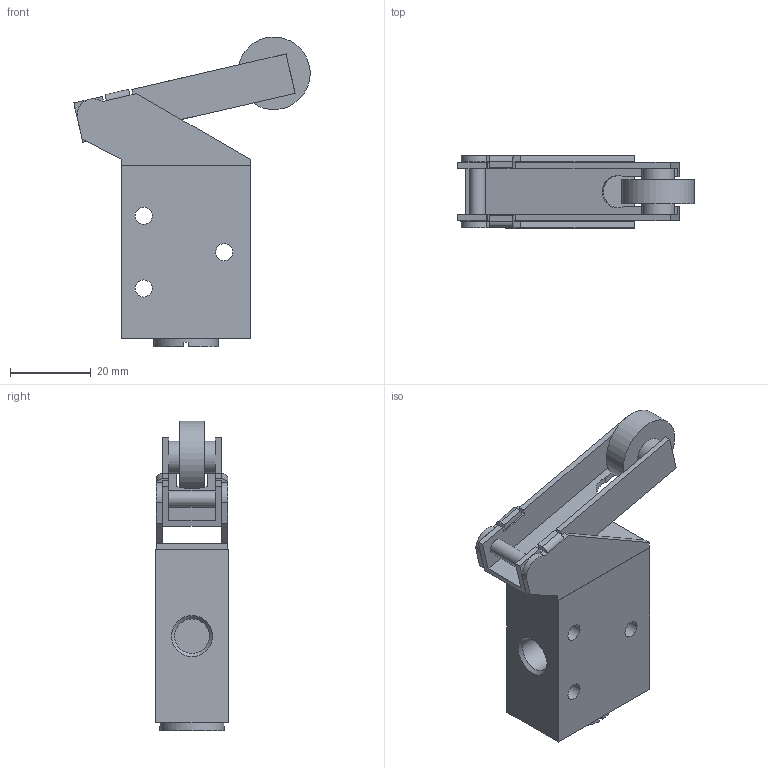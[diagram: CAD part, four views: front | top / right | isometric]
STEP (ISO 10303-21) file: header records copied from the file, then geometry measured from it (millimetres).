
FILE_DESCRIPTION((''),'2;1');
FILE_NAME('I:\Area Tecnica\Documenti\A-Roberto\_Inventor\Rev.Librerie\700\NEW\718_32_2_#.stp','2008-02-25T14:13:32',('rivolro1'),(''),'Autodesk Inventor 2008','Autodesk Inventor 2008','');
FILE_SCHEMA(('AUTOMOTIVE_DESIGN { 1 0 10303 214 1 1 1 1 }'));
Length unit declared in the file: millimetre
Products named in the file (3): 718_32_2_#; 718_32_2_#(A); 718_32_2_#(B)
Assembly tree (2 placements, depth 2):
  718_32_2_#
    718_32_2_#(A)
    718_32_2_#(B)
Bounding box: 58.61 x 18 x 76.84 mm (x, y, z)
Volume: 29256.3 mm3; surface area: 14411.9 mm2
Topology: 3 solids, 3 shells, 94 faces, 219 edges, 139 vertices
Faces by surface type: plane 64, bspline 17, cylinder 13
Full cylindrical faces by diameter (mm): 4 x1, 4.25 x3, 8 x2, 16 x1, 18 x1
Entity records: 2815 total; most frequent: CARTESIAN_POINT 628, DIRECTION 412, ORIENTED_EDGE 400, EDGE_CURVE 200, VECTOR 152, LINE 152, VERTEX_POINT 138, AXIS2_PLACEMENT_3D 130
